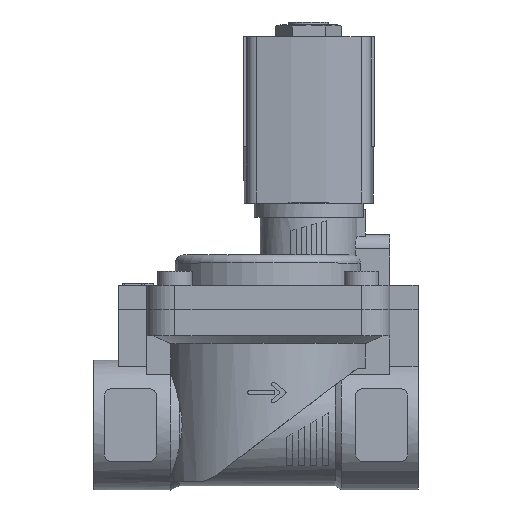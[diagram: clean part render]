
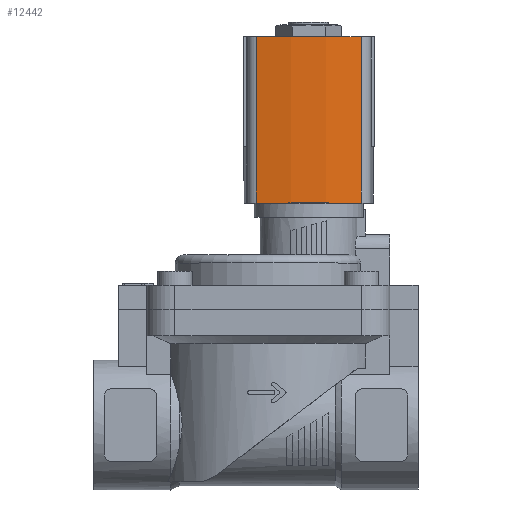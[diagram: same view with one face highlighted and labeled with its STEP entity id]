
A CAD part, top view. The second image highlights one B-rep face of the part: STEP entity #12442.
In plain terms, the highlighted cylindrical face has radius 60 mm (diameter 120 mm), a partial arc.
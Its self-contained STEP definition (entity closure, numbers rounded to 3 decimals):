
#237=CYLINDRICAL_SURFACE('',#13290,60.);
#1212=LINE('',#19058,#2272);
#1213=LINE('',#19062,#2273);
#2272=VECTOR('',#15779,1000.);
#2273=VECTOR('',#15784,1000.);
#4583=ORIENTED_EDGE('',*,*,#6573,.T.);
#4584=ORIENTED_EDGE('',*,*,#6574,.F.);
#4585=ORIENTED_EDGE('',*,*,#5859,.F.);
#4586=ORIENTED_EDGE('',*,*,#6572,.T.);
#5859=EDGE_CURVE('',#7102,#7103,#7824,.T.);
#6572=EDGE_CURVE('',#7102,#7608,#1212,.T.);
#6573=EDGE_CURVE('',#7608,#7609,#7918,.T.);
#6574=EDGE_CURVE('',#7103,#7609,#1213,.T.);
#7102=VERTEX_POINT('',#17712);
#7103=VERTEX_POINT('',#17714);
#7608=VERTEX_POINT('',#19057);
#7609=VERTEX_POINT('',#19061);
#7824=CIRCLE('',#13070,60.);
#7918=CIRCLE('',#13291,60.);
#8337=EDGE_LOOP('',(#4583,#4584,#4585,#4586));
#8911=FACE_BOUND('',#8337,.T.);
#12442=ADVANCED_FACE('',(#8911),#237,.T.);
#13070=AXIS2_PLACEMENT_3D('',#17713,#14720,#14721);
#13290=AXIS2_PLACEMENT_3D('',#19059,#15780,#15781);
#13291=AXIS2_PLACEMENT_3D('',#19060,#15782,#15783);
#14720=DIRECTION('',(0.,1.,0.));
#14721=DIRECTION('',(1.,0.,0.));
#15779=DIRECTION('',(0.,-1.,0.));
#15780=DIRECTION('',(0.,-1.,0.));
#15781=DIRECTION('',(0.,0.,-1.));
#15782=DIRECTION('',(0.,1.,0.));
#15783=DIRECTION('',(1.,0.,0.));
#15784=DIRECTION('',(0.,-1.,0.));
#17712=CARTESIAN_POINT('',(19.078,15.,12.986));
#17713=CARTESIAN_POINT('',(-39.5,15.,0.));
#17714=CARTESIAN_POINT('',(19.078,15.,-12.986));
#19057=CARTESIAN_POINT('',(19.078,-26.,12.986));
#19058=CARTESIAN_POINT('',(19.078,15.,12.986));
#19059=CARTESIAN_POINT('',(-39.5,15.,0.));
#19060=CARTESIAN_POINT('',(-39.5,-26.,0.));
#19061=CARTESIAN_POINT('',(19.078,-26.,-12.986));
#19062=CARTESIAN_POINT('',(19.078,15.,-12.986));
